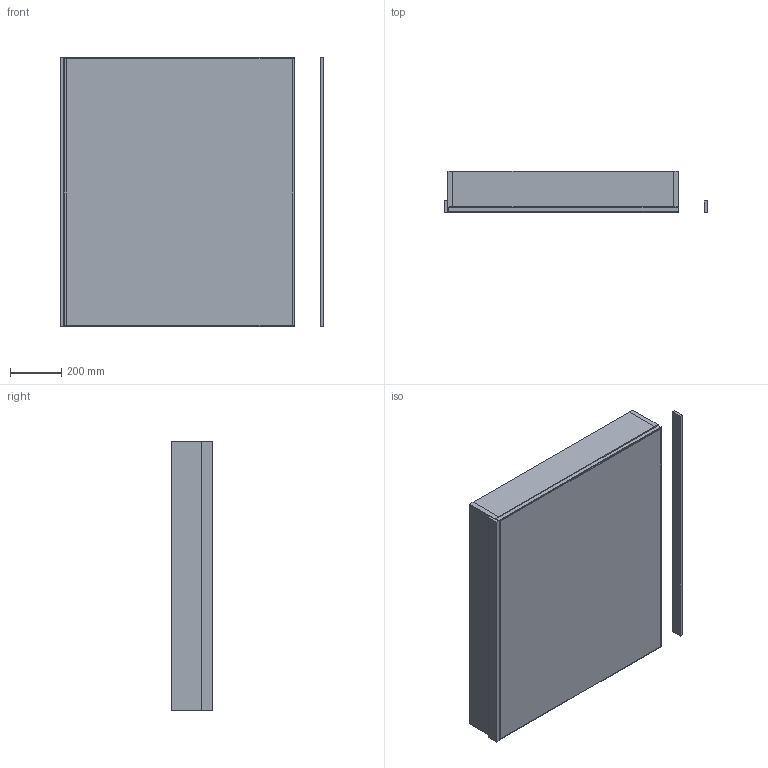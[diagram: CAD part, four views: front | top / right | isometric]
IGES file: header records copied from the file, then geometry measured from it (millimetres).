
Start section: Data from Parasolid IGES Translator 19.0.9, Copyright(c) 2006 Siemens PL M Software. All Rights Reserved.
Global section: file name: noorth-mirror-H 105 D 4,5-16 W 90_9158.igs; native system: By Siemens PLM Incorporated; preprocessor: XPlus GENERIC/IGES 19.0.9; author: Noname; organization: Noname; date: 20200519.113815; units: metre
Bounding box: 1023.82 x 162 x 1050 mm (x, y, z)
Volume: 32465685.7 mm3; surface area: 7126619.3 mm2
Topology: 10 solids, 10 shells, 84 faces, 168 edges, 104 vertices
Faces by surface type: plane 84
